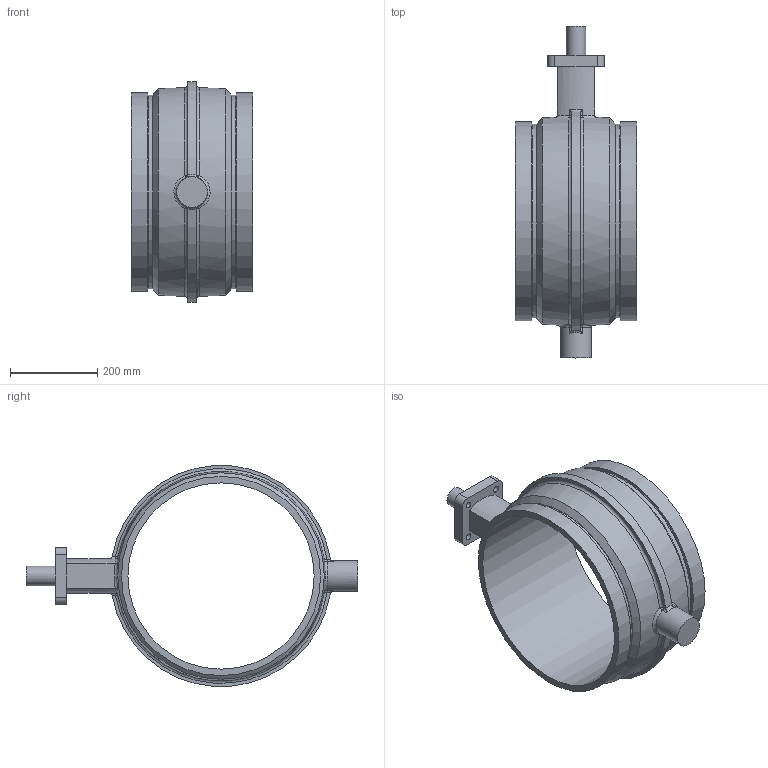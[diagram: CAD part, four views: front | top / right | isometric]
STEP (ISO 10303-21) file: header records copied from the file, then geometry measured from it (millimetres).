
FILE_DESCRIPTION(/* description */ ('VIC AGS VALVE BUTTERFLY VIC-300 MS BARE SERIES W761 (AGS)'),/* implementation_level */ '2;1');
FILE_NAME(/* name */ 'C:\Files for Export\W761\STEP\Victaulic_IPS-AGS_Vlv Btfl Vic-300 MS Bare_Series W761 (AGS)\Victaulic_IPS-AGS_Vlv Btfl Vic-300 MS Bare_Series W761 (AGS)_18 (450).stp',/* time_stamp */ '2024-08-27T14:18:35+02:00',/* author */ ('jheald'),/* organization */ ('Victaulic'),/* preprocessor_version */ 'ST-DEVELOPER v18.1',/* originating_system */ 'Autodesk Inventor 2020',/* authorisation */ '');
FILE_SCHEMA (('AUTOMOTIVE_DESIGN { 1 0 10303 214 3 1 1 }'));
Length unit declared in the file: inch
Products named in the file (1): W761-18.0
Bounding box: 279.4 x 762.25 x 506.68 mm (x, y, z)
Volume: 9912305.2 mm3; surface area: 991924.3 mm2
Topology: 1 solids, 1 shells, 77 faces, 210 edges, 139 vertices
Faces by surface type: cylinder 27, plane 18, torus 10, bspline 10, sphere 8, cone 4
Full cylindrical faces by diameter (mm): 14.732 x4, 44.45 x1, 71.12 x1, 427.609 x1, 444.5 x2, 457.2 x2
Entity records: 3106 total; most frequent: CARTESIAN_POINT 1046, ORIENTED_EDGE 422, DIRECTION 394, EDGE_CURVE 211, AXIS2_PLACEMENT_3D 170, VERTEX_POINT 140, CIRCLE 102, EDGE_LOOP 91
